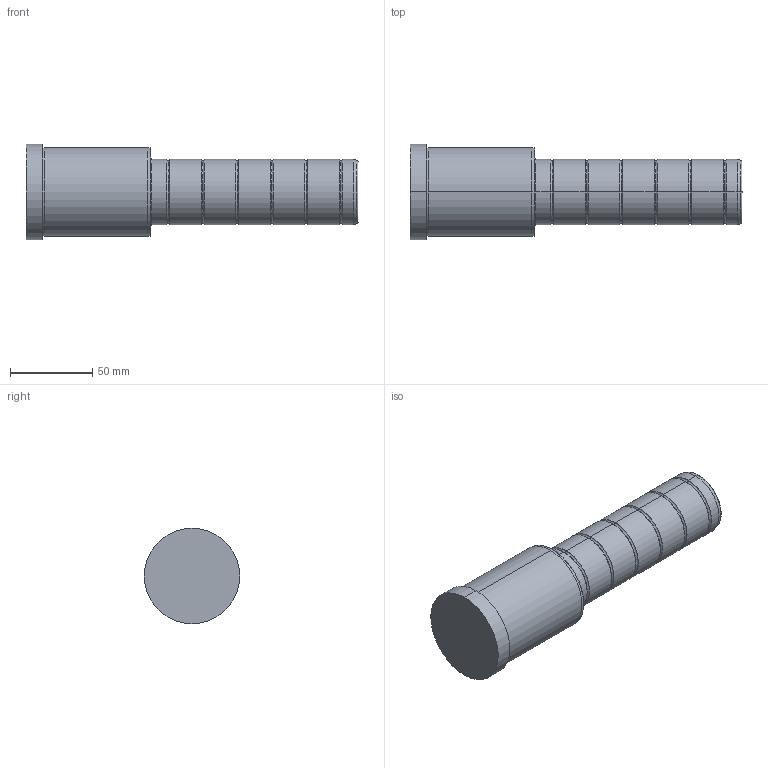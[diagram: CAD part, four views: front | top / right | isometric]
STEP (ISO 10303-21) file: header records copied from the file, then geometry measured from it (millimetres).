
FILE_DESCRIPTION( ( 'STEP AP203' ), '1' );
FILE_NAME( 'C:/Projects/D02 - 40x76x126.step', '2003-01-04T14:13:57', ( ' ' ), ( ' ' ), 'XStep 1.0', ' ', ' ' );
FILE_SCHEMA( ( 'CONFIG_CONTROL_DESIGN' ) );
Length unit declared in the file: metre
Products named in the file (1): 1
Bounding box: 202 x 58 x 58 mm (x, y, z)
Volume: 334682 mm3; surface area: 34731.3 mm2
Topology: 1 solids, 1 shells, 60 faces, 118 edges, 64 vertices
Faces by surface type: bspline 34, revolution 26
Entity records: 1919 total; most frequent: CARTESIAN_POINT 817, ORIENTED_EDGE 236, DIRECTION 182, EDGE_CURVE 118, AXIS2_PLACEMENT_3D 65, EDGE_LOOP 64, VERTEX_POINT 64, CIRCLE 64
